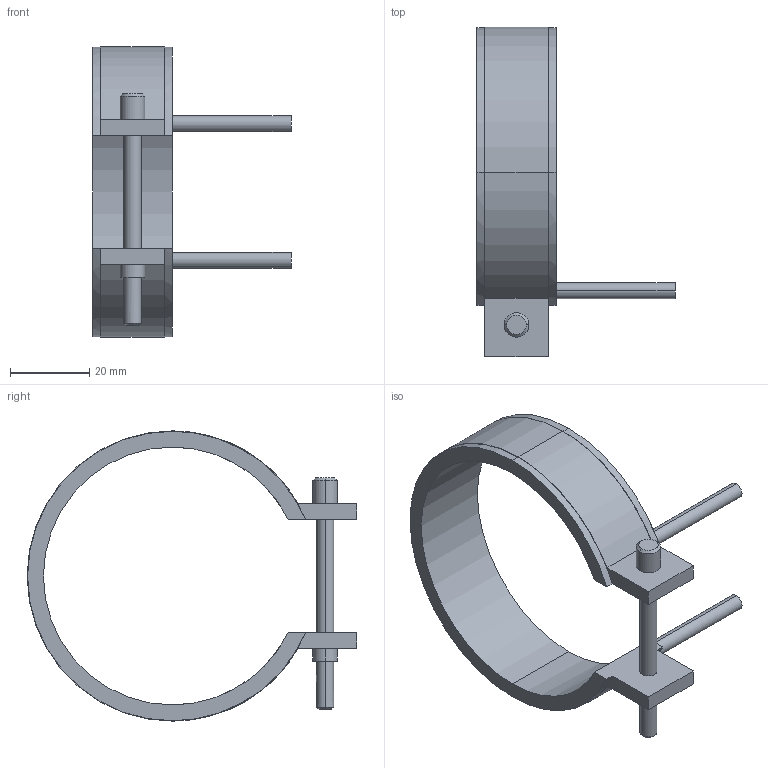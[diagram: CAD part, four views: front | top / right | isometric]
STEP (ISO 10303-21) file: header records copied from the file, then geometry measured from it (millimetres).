
FILE_DESCRIPTION(('CATIA V5 STEP Exchange'),'2;1');
FILE_NAME('C:\Users\Utente\Desktop\IO LAVORO\3D X SITO CF\X SITO\PLASTICA\RF2\14065020.stp','2021-04-03T07:58:54+00:00',('none'),('none'),'CATIA Version 5 Release 20 GA (IN-10)','CATIA V5 STEP AP203','none');
FILE_SCHEMA(('CONFIG_CONTROL_DESIGN'));
Length unit declared in the file: millimetre
Products named in the file (1): 14065020
Bounding box: 50 x 83.1 x 73.2 mm (x, y, z)
Volume: 18711 mm3; surface area: 11765.6 mm2
Topology: 1 solids, 1 shells, 45 faces, 116 edges, 76 vertices
Faces by surface type: cylinder 24, plane 17, cone 4
Entity records: 1406 total; most frequent: CARTESIAN_POINT 280, ORIENTED_EDGE 232, DIRECTION 196, EDGE_CURVE 116, AXIS2_PLACEMENT_3D 104, VERTEX_POINT 76, CIRCLE 62, VECTOR 52
